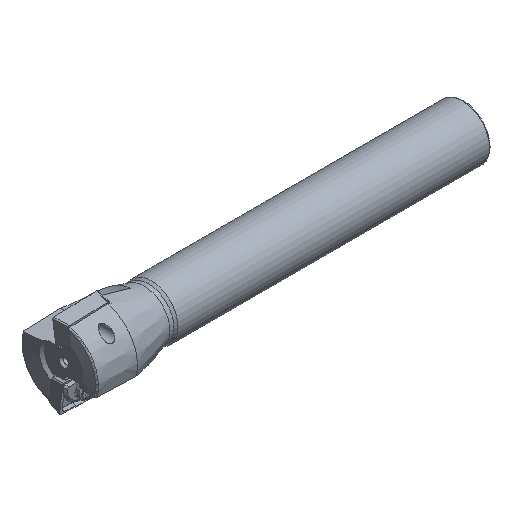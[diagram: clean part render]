
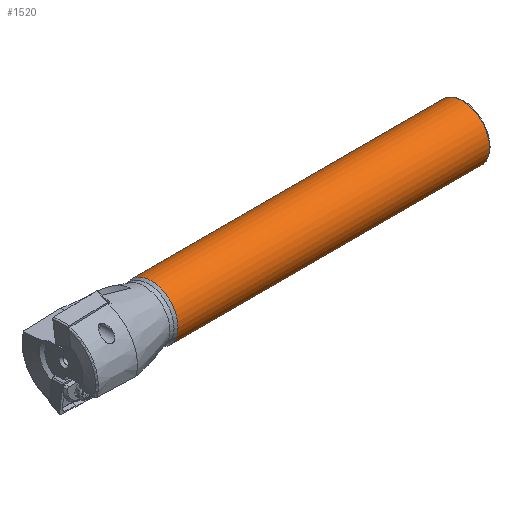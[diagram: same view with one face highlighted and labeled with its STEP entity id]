
A CAD part, isometric view. The second image highlights one B-rep face of the part: STEP entity #1520.
In plain terms, the highlighted cylindrical face has radius 10 mm (diameter 20 mm), a full revolution.
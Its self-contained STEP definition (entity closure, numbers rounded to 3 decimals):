
#154=FACE_OUTER_BOUND('',#242,.T.);
#242=EDGE_LOOP('',(#1047,#1048,#1049,#1050,#1051,#1052));
#342=CIRCLE('',#1702,10.);
#343=CIRCLE('',#1703,10.);
#345=CIRCLE('',#1706,10.);
#346=CIRCLE('',#1707,10.);
#398=LINE('',#2348,#493);
#493=VECTOR('',#1871,10.);
#648=VERTEX_POINT('',#2340);
#649=VERTEX_POINT('',#2342);
#650=VERTEX_POINT('',#2347);
#651=VERTEX_POINT('',#2349);
#807=EDGE_CURVE('',#648,#649,#342,.T.);
#808=EDGE_CURVE('',#649,#648,#343,.T.);
#810=EDGE_CURVE('',#648,#650,#398,.T.);
#811=EDGE_CURVE('',#650,#651,#345,.T.);
#812=EDGE_CURVE('',#651,#650,#346,.T.);
#1047=ORIENTED_EDGE('',*,*,#808,.F.);
#1048=ORIENTED_EDGE('',*,*,#807,.F.);
#1049=ORIENTED_EDGE('',*,*,#810,.T.);
#1050=ORIENTED_EDGE('',*,*,#811,.T.);
#1051=ORIENTED_EDGE('',*,*,#812,.T.);
#1052=ORIENTED_EDGE('',*,*,#810,.F.);
#1501=CYLINDRICAL_SURFACE('',#1705,10.);
#1520=ADVANCED_FACE('',(#154),#1501,.T.);
#1702=AXIS2_PLACEMENT_3D('',#2343,#1863,#1864);
#1703=AXIS2_PLACEMENT_3D('',#2344,#1865,#1866);
#1705=AXIS2_PLACEMENT_3D('',#2346,#1869,#1870);
#1706=AXIS2_PLACEMENT_3D('',#2350,#1872,#1873);
#1707=AXIS2_PLACEMENT_3D('',#2351,#1874,#1875);
#1863=DIRECTION('center_axis',(1.,0.,0.));
#1864=DIRECTION('ref_axis',(0.,0.,1.));
#1865=DIRECTION('center_axis',(1.,0.,0.));
#1866=DIRECTION('ref_axis',(0.,0.,1.));
#1869=DIRECTION('center_axis',(1.,0.,0.));
#1870=DIRECTION('ref_axis',(0.,0.,-1.));
#1871=DIRECTION('',(-1.,0.,0.));
#1872=DIRECTION('center_axis',(1.,0.,0.));
#1873=DIRECTION('ref_axis',(0.,0.,-1.));
#1874=DIRECTION('center_axis',(1.,0.,0.));
#1875=DIRECTION('ref_axis',(0.,0.,-1.));
#2340=CARTESIAN_POINT('',(-0.5,0.,10.));
#2342=CARTESIAN_POINT('',(-0.5,0.,-10.));
#2343=CARTESIAN_POINT('Origin',(-0.5,0.,0.));
#2344=CARTESIAN_POINT('Origin',(-0.5,0.,0.));
#2346=CARTESIAN_POINT('Origin',(-57.75,0.,0.));
#2347=CARTESIAN_POINT('',(-115.5,0.,10.));
#2348=CARTESIAN_POINT('',(-57.75,0.,10.));
#2349=CARTESIAN_POINT('',(-115.5,0.,-10.));
#2350=CARTESIAN_POINT('Origin',(-115.5,0.,0.));
#2351=CARTESIAN_POINT('Origin',(-115.5,0.,0.));
